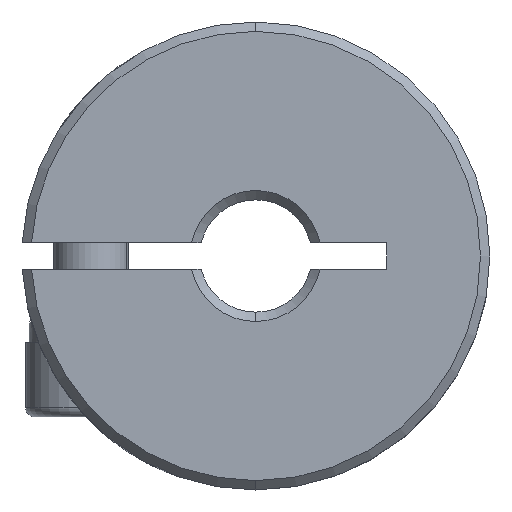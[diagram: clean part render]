
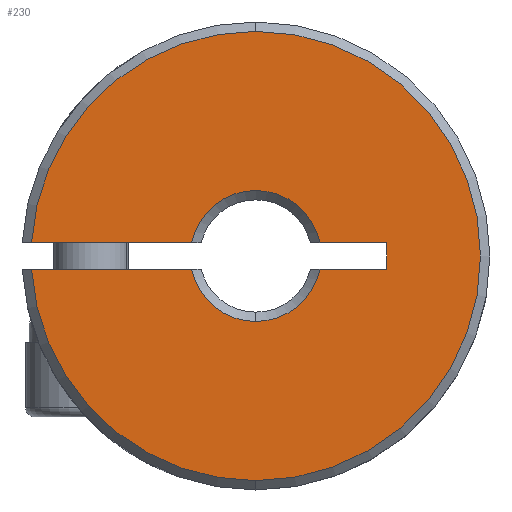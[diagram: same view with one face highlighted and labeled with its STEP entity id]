
A CAD part, front view. The second image highlights one B-rep face of the part: STEP entity #230.
In plain terms, the highlighted planar face has unit normal (0, -1, 0).
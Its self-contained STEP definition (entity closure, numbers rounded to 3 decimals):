
#23 = AXIS2_PLACEMENT_3D ( 'NONE', #1006, #3936, #4922 ) ;
#99 = CARTESIAN_POINT ( 'NONE',  ( -12.75, 0.25, -0.7 ) ) ;
#117 = AXIS2_PLACEMENT_3D ( 'NONE', #4624, #3295, #6069 ) ;
#141 = CARTESIAN_POINT ( 'NONE',  ( -3.429, 0.25, -0.7 ) ) ;
#230 = ADVANCED_FACE ( 'NONE', ( #404 ), #4478, .F. ) ;
#272 = DIRECTION ( 'NONE',  ( 0., 1., 0. ) ) ;
#313 = CARTESIAN_POINT ( 'NONE',  ( 0., 0.25, 0. ) ) ;
#367 = DIRECTION ( 'NONE',  ( 0., 0., 1. ) ) ;
#404 = FACE_OUTER_BOUND ( 'NONE', #3640, .T. ) ;
#495 = CIRCLE ( 'NONE', #3660, 3.5 ) ;
#522 = ORIENTED_EDGE ( 'NONE', *, *, #5522, .F. ) ;
#582 = VECTOR ( 'NONE', #4941, 1000. ) ;
#665 = VECTOR ( 'NONE', #3265, 1000. ) ;
#677 = CARTESIAN_POINT ( 'NONE',  ( -12.75, 0.25, -0.7 ) ) ;
#770 = CARTESIAN_POINT ( 'NONE',  ( 0., 0.25, 0. ) ) ;
#875 = LINE ( 'NONE', #1998, #582 ) ;
#900 = ORIENTED_EDGE ( 'NONE', *, *, #3390, .F. ) ;
#931 = VECTOR ( 'NONE', #5978, 1000. ) ;
#1006 = CARTESIAN_POINT ( 'NONE',  ( -500., 0.25, -13.609 ) ) ;
#1193 = EDGE_CURVE ( 'NONE', #4283, #3545, #3958, .T. ) ;
#1253 = EDGE_CURVE ( 'NONE', #4146, #5950, #1921, .T. ) ;
#1374 = DIRECTION ( 'NONE',  ( 0., 0., 1. ) ) ;
#1433 = ORIENTED_EDGE ( 'NONE', *, *, #2675, .T. ) ;
#1550 = AXIS2_PLACEMENT_3D ( 'NONE', #2742, #4699, #367 ) ;
#1676 = VECTOR ( 'NONE', #5079, 1000. ) ;
#1808 = DIRECTION ( 'NONE',  ( 0., -1., 0. ) ) ;
#1825 = AXIS2_PLACEMENT_3D ( 'NONE', #6024, #4553, #2253 ) ;
#1827 = DIRECTION ( 'NONE',  ( 0., 0., 1. ) ) ;
#1921 = LINE ( 'NONE', #99, #931 ) ;
#1922 = VERTEX_POINT ( 'NONE', #4278 ) ;
#1992 = ORIENTED_EDGE ( 'NONE', *, *, #1253, .F. ) ;
#1998 = CARTESIAN_POINT ( 'NONE',  ( -12.75, 0.25, 0.7 ) ) ;
#2073 = CARTESIAN_POINT ( 'NONE',  ( 7., 0.25, 0.7 ) ) ;
#2145 = CARTESIAN_POINT ( 'NONE',  ( -11.98, 0.25, 0.7 ) ) ;
#2171 = CIRCLE ( 'NONE', #4147, 3.5 ) ;
#2253 = DIRECTION ( 'NONE',  ( 0., 0., 1. ) ) ;
#2297 = CARTESIAN_POINT ( 'NONE',  ( -12.75, 0.25, 0.7 ) ) ;
#2299 = DIRECTION ( 'NONE',  ( 0., 0., 1. ) ) ;
#2493 = CARTESIAN_POINT ( 'NONE',  ( 7., 0.25, 0.7 ) ) ;
#2637 = CIRCLE ( 'NONE', #1825, 3.5 ) ;
#2675 = EDGE_CURVE ( 'NONE', #4102, #1922, #4559, .T. ) ;
#2742 = CARTESIAN_POINT ( 'NONE',  ( 0., 0.25, 0. ) ) ;
#2759 = CARTESIAN_POINT ( 'NONE',  ( 0., 0.25, 0. ) ) ;
#3083 = CARTESIAN_POINT ( 'NONE',  ( -3.429, 0.25, 0.7 ) ) ;
#3191 = EDGE_CURVE ( 'NONE', #4152, #3286, #2637, .T. ) ;
#3265 = DIRECTION ( 'NONE',  ( -1., 0., 0. ) ) ;
#3286 = VERTEX_POINT ( 'NONE', #6134 ) ;
#3295 = DIRECTION ( 'NONE',  ( 0., -1., 0. ) ) ;
#3390 = EDGE_CURVE ( 'NONE', #4152, #4746, #5536, .T. ) ;
#3545 = VERTEX_POINT ( 'NONE', #2073 ) ;
#3640 = EDGE_LOOP ( 'NONE', ( #4614, #4974, #4331, #1992, #4554, #1433, #5319, #900, #4386, #522, #4661 ) ) ;
#3660 = AXIS2_PLACEMENT_3D ( 'NONE', #313, #4219, #1374 ) ;
#3924 = CARTESIAN_POINT ( 'NONE',  ( 0., 0.25, -12. ) ) ;
#3936 = DIRECTION ( 'NONE',  ( 0., 1., 0. ) ) ;
#3958 = LINE ( 'NONE', #2493, #1676 ) ;
#3983 = CIRCLE ( 'NONE', #4409, 12. ) ;
#4102 = VERTEX_POINT ( 'NONE', #3924 ) ;
#4146 = VERTEX_POINT ( 'NONE', #4551 ) ;
#4147 = AXIS2_PLACEMENT_3D ( 'NONE', #770, #272, #2299 ) ;
#4151 = CARTESIAN_POINT ( 'NONE',  ( 7., 0.25, -0.7 ) ) ;
#4152 = VERTEX_POINT ( 'NONE', #3083 ) ;
#4219 = DIRECTION ( 'NONE',  ( 0., 1., 0. ) ) ;
#4278 = CARTESIAN_POINT ( 'NONE',  ( 0., 0.25, 12. ) ) ;
#4283 = VERTEX_POINT ( 'NONE', #4151 ) ;
#4331 = ORIENTED_EDGE ( 'NONE', *, *, #5680, .T. ) ;
#4386 = ORIENTED_EDGE ( 'NONE', *, *, #3191, .T. ) ;
#4409 = AXIS2_PLACEMENT_3D ( 'NONE', #2759, #1808, #1827 ) ;
#4478 = PLANE ( 'NONE',  #23 ) ;
#4494 = VERTEX_POINT ( 'NONE', #6307 ) ;
#4551 = CARTESIAN_POINT ( 'NONE',  ( -11.98, 0.25, -0.7 ) ) ;
#4553 = DIRECTION ( 'NONE',  ( 0., 1., 0. ) ) ;
#4554 = ORIENTED_EDGE ( 'NONE', *, *, #5339, .T. ) ;
#4555 = DIRECTION ( 'NONE',  ( 1., 0., 0. ) ) ;
#4559 = CIRCLE ( 'NONE', #117, 12. ) ;
#4614 = ORIENTED_EDGE ( 'NONE', *, *, #4814, .F. ) ;
#4624 = CARTESIAN_POINT ( 'NONE',  ( 0., 0.25, 0. ) ) ;
#4661 = ORIENTED_EDGE ( 'NONE', *, *, #1193, .F. ) ;
#4699 = DIRECTION ( 'NONE',  ( 0., -1., 0. ) ) ;
#4746 = VERTEX_POINT ( 'NONE', #2145 ) ;
#4814 = EDGE_CURVE ( 'NONE', #4494, #4283, #5597, .T. ) ;
#4837 = VECTOR ( 'NONE', #4555, 1000. ) ;
#4911 = VERTEX_POINT ( 'NONE', #5616 ) ;
#4922 = DIRECTION ( 'NONE',  ( 0., 0., 1. ) ) ;
#4941 = DIRECTION ( 'NONE',  ( -1., 0., 0. ) ) ;
#4974 = ORIENTED_EDGE ( 'NONE', *, *, #6223, .T. ) ;
#5079 = DIRECTION ( 'NONE',  ( 0., 0., 1. ) ) ;
#5319 = ORIENTED_EDGE ( 'NONE', *, *, #5630, .T. ) ;
#5339 = EDGE_CURVE ( 'NONE', #4146, #4102, #3983, .T. ) ;
#5522 = EDGE_CURVE ( 'NONE', #3545, #3286, #875, .T. ) ;
#5536 = LINE ( 'NONE', #2297, #665 ) ;
#5597 = LINE ( 'NONE', #677, #4837 ) ;
#5616 = CARTESIAN_POINT ( 'NONE',  ( 0., 0.25, -3.5 ) ) ;
#5630 = EDGE_CURVE ( 'NONE', #1922, #4746, #6132, .T. ) ;
#5680 = EDGE_CURVE ( 'NONE', #4911, #5950, #2171, .T. ) ;
#5950 = VERTEX_POINT ( 'NONE', #141 ) ;
#5978 = DIRECTION ( 'NONE',  ( 1., 0., 0. ) ) ;
#6024 = CARTESIAN_POINT ( 'NONE',  ( 0., 0.25, 0. ) ) ;
#6069 = DIRECTION ( 'NONE',  ( 0., 0., 1. ) ) ;
#6132 = CIRCLE ( 'NONE', #1550, 12. ) ;
#6134 = CARTESIAN_POINT ( 'NONE',  ( 3.429, 0.25, 0.7 ) ) ;
#6223 = EDGE_CURVE ( 'NONE', #4494, #4911, #495, .T. ) ;
#6307 = CARTESIAN_POINT ( 'NONE',  ( 3.429, 0.25, -0.7 ) ) ;
